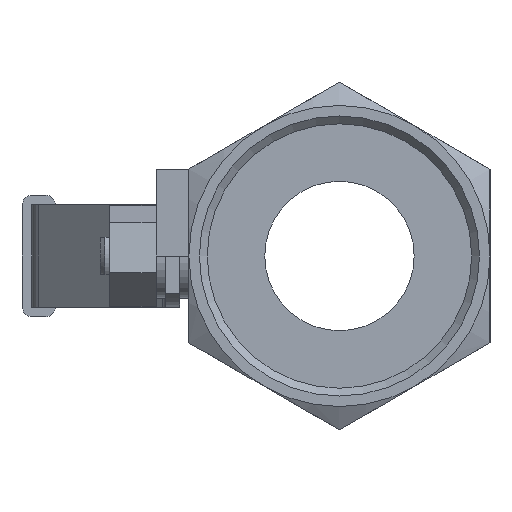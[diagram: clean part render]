
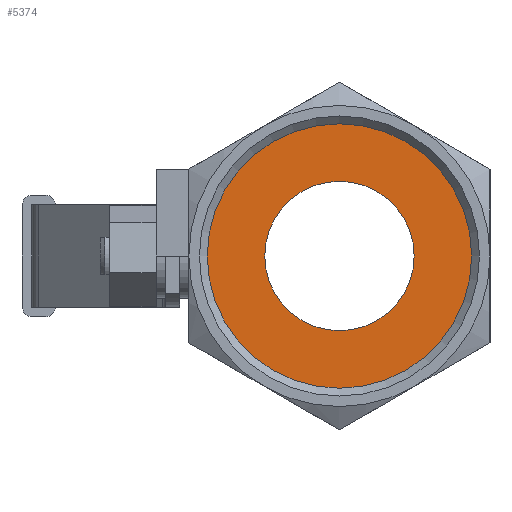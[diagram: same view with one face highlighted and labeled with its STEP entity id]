
A CAD part, left-side view. The second image highlights one B-rep face of the part: STEP entity #5374.
In plain terms, the highlighted planar face has unit normal (-1, 0, 0).
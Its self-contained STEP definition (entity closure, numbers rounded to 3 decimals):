
#102=FACE_BOUND('',#667,.T.);
#134=PLANE('',#5698);
#372=FACE_OUTER_BOUND('',#666,.T.);
#666=EDGE_LOOP('',(#3523));
#667=EDGE_LOOP('',(#3524));
#2114=CIRCLE('',#5685,16.);
#2121=CIRCLE('',#5697,28.328);
#2238=VERTEX_POINT('',#7477);
#2245=VERTEX_POINT('',#7500);
#2738=EDGE_CURVE('',#2238,#2238,#2114,.T.);
#2749=EDGE_CURVE('',#2245,#2245,#2121,.T.);
#3523=ORIENTED_EDGE('',*,*,#2749,.T.);
#3524=ORIENTED_EDGE('',*,*,#2738,.T.);
#5374=ADVANCED_FACE('',(#372,#102),#134,.T.);
#5685=AXIS2_PLACEMENT_3D('',#7478,#6096,#6097);
#5697=AXIS2_PLACEMENT_3D('',#7501,#6124,#6125);
#5698=AXIS2_PLACEMENT_3D('',#7503,#6127,#6128);
#6096=DIRECTION('center_axis',(1.,0.,0.));
#6097=DIRECTION('ref_axis',(0.,0.,-1.));
#6124=DIRECTION('center_axis',(-1.,0.,0.));
#6125=DIRECTION('ref_axis',(0.,0.,
1.));
#6127=DIRECTION('center_axis',(-1.,0.,0.));
#6128=DIRECTION('ref_axis',(0.,0.,
1.));
#7477=CARTESIAN_POINT('',(-99.571,-19.159,16.));
#7478=CARTESIAN_POINT('Origin',(-99.571,-19.159,0.));
#7500=CARTESIAN_POINT('',(-99.571,-19.159,-28.328));
#7501=CARTESIAN_POINT('Origin',(-99.571,-19.159,0.));
#7503=CARTESIAN_POINT('Origin',(-99.571,-19.159,0.));
